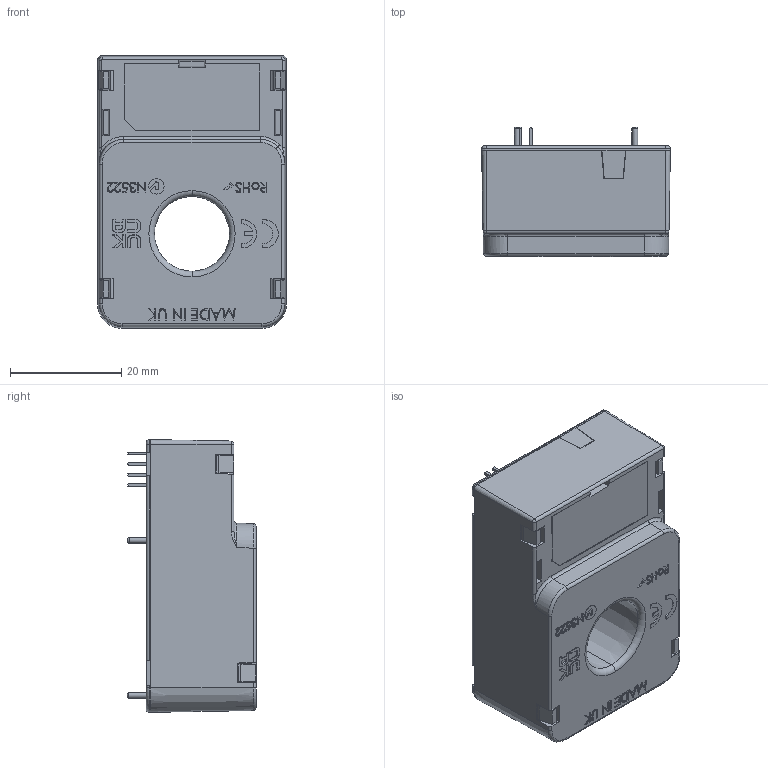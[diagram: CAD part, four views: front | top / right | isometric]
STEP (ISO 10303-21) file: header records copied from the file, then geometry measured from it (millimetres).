
FILE_DESCRIPTION(('FreeCAD Model'),'2;1');
FILE_NAME('C:/Users/ian/OneDrive/Documents/Broyce/Projects/PJ213 - RCM-EV/Broyce Control - RCM-EV-04 - v0-2-Fusion.step','2021-06-29T15:18:27',('Author') ,(''),'Open CASCADE STEP processor 7.3','FreeCAD','Unknown');
FILE_SCHEMA(('AUTOMOTIVE_DESIGN { 1 0 10303 214 1 1 1 1 }'));
Products named in the file (1): Fusion
Bounding box: 33.94 x 23.32 x 49.04 mm (x, y, z)
Volume: 6486 mm3; surface area: 15474.1 mm2
Topology: 11 solids, 14 shells, 1336 faces, 3467 edges, 2233 vertices
Faces by surface type: plane 777, bspline 294, cone 100, cylinder 84, torus 45, sphere 28, revolution 8
Full cylindrical faces by diameter (mm): 1 x4
Entity records: 126922 total; most frequent: CARTESIAN_POINT 53950, DIRECTION 9718, ORIENTED_EDGE 6926, PCURVE 6926, DEFINITIONAL_REPRESENTATION 6926, LINE 6612, VECTOR 6612, EDGE_CURVE 3463
